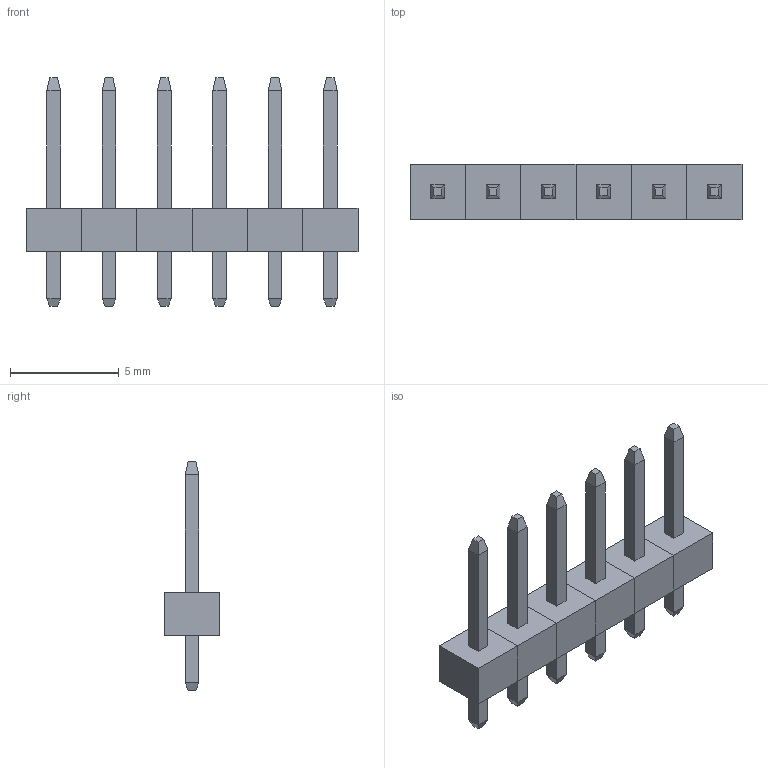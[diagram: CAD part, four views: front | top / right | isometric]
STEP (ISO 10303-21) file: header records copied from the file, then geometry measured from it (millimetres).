
FILE_DESCRIPTION(('shape.step'),'2;1');
FILE_NAME('shape.step','2026-11-03',('tscircuit'),('tscircuit'),'generator','','');
FILE_SCHEMA(('AUTOMOTIVE_DESIGN { 1 0 10303 214 1 1 1 1 }'));
Length unit declared in the file: millimetre
Products named in the file (1): shape
Bounding box: 15.24 x 2.54 x 10.5 mm (x, y, z)
Volume: 98.1 mm3; surface area: 339.7 mm2
Topology: 18 solids, 18 shells, 156 faces, 312 edges, 192 vertices
Faces by surface type: plane 156
Entity records: 3700 total; most frequent: DIRECTION 626, ORIENTED_EDGE 624, CARTESIAN_POINT 349, VECTOR 312, LINE 312, EDGE_CURVE 312, VERTEX_POINT 192, AXIS2_PLACEMENT_3D 157
